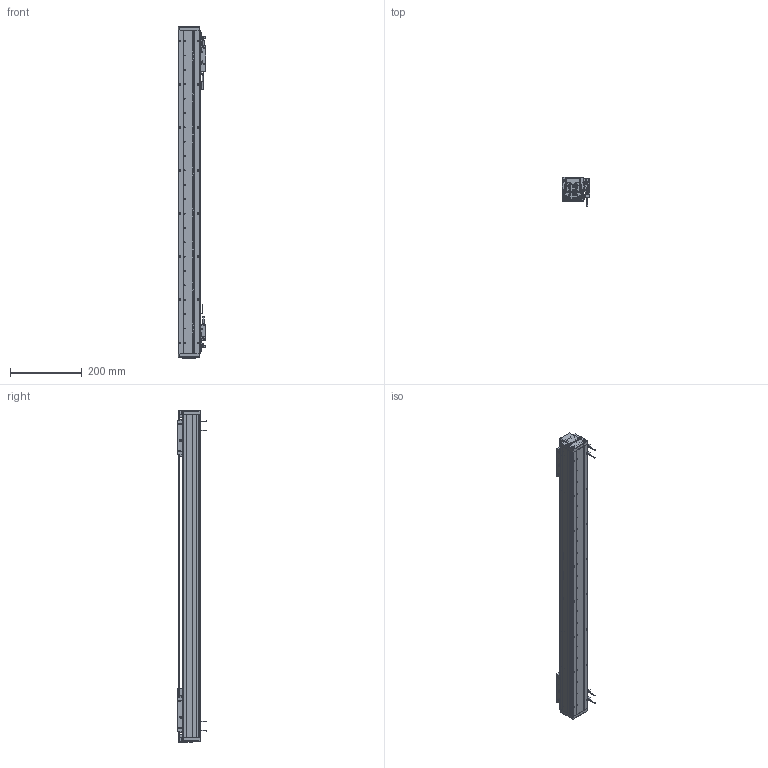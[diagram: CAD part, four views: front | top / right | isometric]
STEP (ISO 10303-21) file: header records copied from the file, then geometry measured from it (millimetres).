
FILE_DESCRIPTION (( 'STEP AP203' ), '1' );
FILE_NAME ('DA-A60-2-B1-T660-C010-0.2 眻盄萇儂.STEP', '2025-08-13T01:17:05', ( '' ), ( '' ), 'SwSTEP 2.0', 'SolidWorks 2019', '' );
FILE_SCHEMA (( 'CONFIG_CONTROL_DESIGN' ));
Length unit declared in the file: millimetre
Products named in the file (27): 葩璃 DA60-DG-H-N-00 傷裔^DA-A60-2-B1-T60-C010-0.2-N; AU60-L 菁釱絳寢; 葩璃 DA60-HK-DP-01 結え^AU60-V 幗紩賑怢; 葩璃 DMT-010 1米m 0.2M^DA-A60-2-B1-T60-C010-0.2-N; 葩璃 DA60-DMT-DTJ-00 黍杅芛盓殤^DA-A60-2-B1-T60-C010-0.2-N; AU60-V 幗紩賑怢-1; 复件 DA60-GT-T-00 底座钢轨^AU60-L 底座导轨; 葩璃 PM-Y65^DA-A60-2-B1-T60-C010-0.2-N; 葩璃 DA60-XJ-00 砎蝶結輸^DA-A60-2-B1-T60-C010-0.2-N; DA-A60-2-B1-T660-C010-0.2 眻盄萇儂; DA60-T-002-00  裔啣; IU-AU60-L-00 菁釱(900); 葩璃 XD-U-02  棠掑喜^DA-A60-2-B1-T60-C010-0.2-N; DA60-YT-B1-HT-B-01 珨极趙賑雄怢啣; DA60-B1-HT-B-03 賑雄怢啣; ｸｴｼ DA60-DMT-DTJ-ZJ-00 ﾖﾐｼ荼ﾁﾊﾍｷﾖｧｼﾜ^DA-A60-2-B1-T60-C010-0.2-N; ｸｴｼ BAKM01-W030-C1-TP-0.2 ﾖｱﾏﾟｵ扈巐ｯﾗﾓ^DA-A60-2-B1-T60-C010-0.2-N; DA60-YT-B1-HT-B-01 珨极趙賑雄怢啣-1; ｸｴｼ DA-A60-GYP-DMT-00 ｹ箏邵ﾐﾓｦﾆｬ^DA-A60-2-B1-T60-C010-0.2-N(ﾄｬﾈﾏ); ｸｴｼ DA60-GYP-ZJ-01 ﾖﾐｼ荵箏邵ﾐﾓｦﾆｬ^DA-A60-2-B1-T60-C010-0.2-N(ﾄｬﾈﾏ); AU60-V 幗紩賑怢; 复件 纯铜油杯 6x6mm^AU60-V 滚珠滑台; 葩璃 鞠褒情蹟譫 M3^DA-A60-2-B1-T60-C010-0.2-N(GB_FASTENER_NUT_STNAB M3-C); 葩璃 PM-T45^DA-A60-2-B1-T60-C010-0.2-N; 复件 DA60-HC-XJ-01 中间缓冲橡胶^DA-A60-2-B1-T60-C010-0.2-N; 葩璃 AKM01-W030-TRL^DA-A60-2-B1-T60-C010-0.2-N; 复件 DA60-B1-GT-00 滑块钢轨^DA60-YT-B1-HT-B-01 一体化滑动台板
Assembly tree (51 placements, depth 4):
  DA-A60-2-B1-T660-C010-0.2 眻盄萇儂
    AU60-L 菁釱絳寢
      IU-AU60-L-00 菁釱(900)
      复件 DA60-GT-T-00 底座钢轨^AU60-L 底座导轨  x2
    AU60-V 幗紩賑怢
      DA60-YT-B1-HT-B-01 珨极趙賑雄怢啣
        DA60-B1-HT-B-03 賑雄怢啣
        复件 DA60-B1-GT-00 滑块钢轨^DA60-YT-B1-HT-B-01 一体化滑动台板  x2
      葩璃 DA60-HK-DP-01 結え^AU60-V 幗紩賑怢  x2
      复件 纯铜油杯 6x6mm^AU60-V 滚珠滑台
    AU60-V 幗紩賑怢-1
      DA60-YT-B1-HT-B-01 珨极趙賑雄怢啣-1
        DA60-B1-HT-B-03 賑雄怢啣
        复件 DA60-B1-GT-00 滑块钢轨^DA60-YT-B1-HT-B-01 一体化滑动台板  x2
      葩璃 DA60-HK-DP-01 結え^AU60-V 幗紩賑怢  x2
      复件 纯铜油杯 6x6mm^AU60-V 滚珠滑台
    ｸｴｼ DA60-DMT-DTJ-ZJ-00 ﾖﾐｼ荼ﾁﾊﾍｷﾖｧｼﾜ^DA-A60-2-B1-T60-C010-0.2-N
    葩璃 PM-Y65^DA-A60-2-B1-T60-C010-0.2-N
    复件 DA60-HC-XJ-01 中间缓冲橡胶^DA-A60-2-B1-T60-C010-0.2-N  x2
    ｸｴｼ DA60-GYP-ZJ-01 ﾖﾐｼ荵箏邵ﾐﾓｦﾆｬ^DA-A60-2-B1-T60-C010-0.2-N(ﾄｬﾈﾏ)
    ｸｴｼ DA-A60-GYP-DMT-00 ｹ箏邵ﾐﾓｦﾆｬ^DA-A60-2-B1-T60-C010-0.2-N(ﾄｬﾈﾏ)  x2
    葩璃 DA60-DMT-DTJ-00 黍杅芛盓殤^DA-A60-2-B1-T60-C010-0.2-N
    葩璃 DMT-010 1米m 0.2M^DA-A60-2-B1-T60-C010-0.2-N  x2
    ｸｴｼ BAKM01-W030-C1-TP-0.2 ﾖｱﾏﾟｵ扈巐ｯﾗﾓ^DA-A60-2-B1-T60-C010-0.2-N  x2
    葩璃 DA60-XJ-00 砎蝶結輸^DA-A60-2-B1-T60-C010-0.2-N  x2
    葩璃 DA60-DG-H-N-00 傷裔^DA-A60-2-B1-T60-C010-0.2-N  x2
    DA60-T-002-00  裔啣
    葩璃 AKM01-W030-TRL^DA-A60-2-B1-T60-C010-0.2-N
    葩璃 PM-T45^DA-A60-2-B1-T60-C010-0.2-N  x4
    葩璃 XD-U-02  棠掑喜^DA-A60-2-B1-T60-C010-0.2-N
    葩璃 鞠褒情蹟譫 M3^DA-A60-2-B1-T60-C010-0.2-N(GB_FASTENER_NUT_STNAB M3-C)  x8
Bounding box: 76.95 x 80 x 924 mm (x, y, z)
Volume: 2038357.5 mm3; surface area: 731991.4 mm2
Topology: 57 solids, 61 shells, 3874 faces, 9989 edges, 6120 vertices
Faces by surface type: plane 1494, cylinder 1432, bspline 592, cone 342, torus 12, sphere 2
Entity records: 88257 total; most frequent: CARTESIAN_POINT 27008, ORIENTED_EDGE 12532, DIRECTION 11419, EDGE_CURVE 6266, AXIS2_PLACEMENT_3D 3977, VERTEX_POINT 3959, LINE 3465, VECTOR 3465
